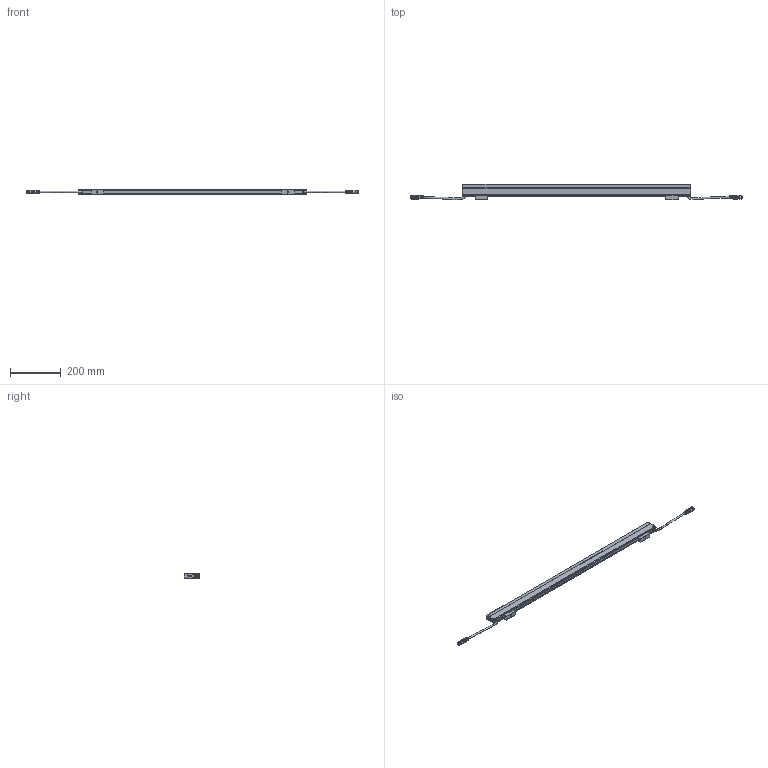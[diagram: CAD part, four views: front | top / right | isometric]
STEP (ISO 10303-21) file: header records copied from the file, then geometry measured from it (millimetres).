
FILE_DESCRIPTION (( 'STEP AP214' ), '1' );
FILE_NAME ('DiGi Linear V-Series L900 Square.STEP', '2025-07-22T11:43:41', ( '' ), ( '' ), 'SwSTEP 2.0', 'SolidWorks 2025', '' );
FILE_SCHEMA (( 'AUTOMOTIVE_DESIGN' ));
Length unit declared in the file: millimetre
Products named in the file (7): M12 3p Male; M12 3p Female; DiGi Linear V-serie - Cabling_L900; DiGi Linear V-serie - Clip; Counter sunk screw torx_M2x6; DiGi Linear V-Series L900 Square; DiGi Linear V-serie - Body_L900 Square
Assembly tree (10 placements, depth 2):
  DiGi Linear V-Series L900 Square
    DiGi Linear V-serie - Body_L900 Square
    DiGi Linear V-serie - Clip  x2
    M12 3p Male
    M12 3p Female
    DiGi Linear V-serie - Cabling_L900
    Counter sunk screw torx_M2x6  x4
Bounding box: 1307.4 x 59.99 x 18.3 mm (x, y, z)
Volume: 721261.2 mm3; surface area: 153136.5 mm2
Topology: 13 solids, 13 shells, 1288 faces, 3239 edges, 2020 vertices
Faces by surface type: plane 493, cylinder 358, bspline 184, torus 161, cone 80, sphere 12
Full cylindrical faces by diameter (mm): 2 x4, 2.4 x4, 3 x4, 6.5 x6, 9.7 x1, 10 x2, 10.8 x1, 12.3 x1, 14.3 x2
Entity records: 54080 total; most frequent: CARTESIAN_POINT 17232, ORIENTED_EDGE 5846, DIRECTION 4845, EDGE_CURVE 2923, VERTEX_POINT 1836, AXIS2_PLACEMENT_3D 1823, EDGE_LOOP 1283, FACE_OUTER_BOUND 1212
